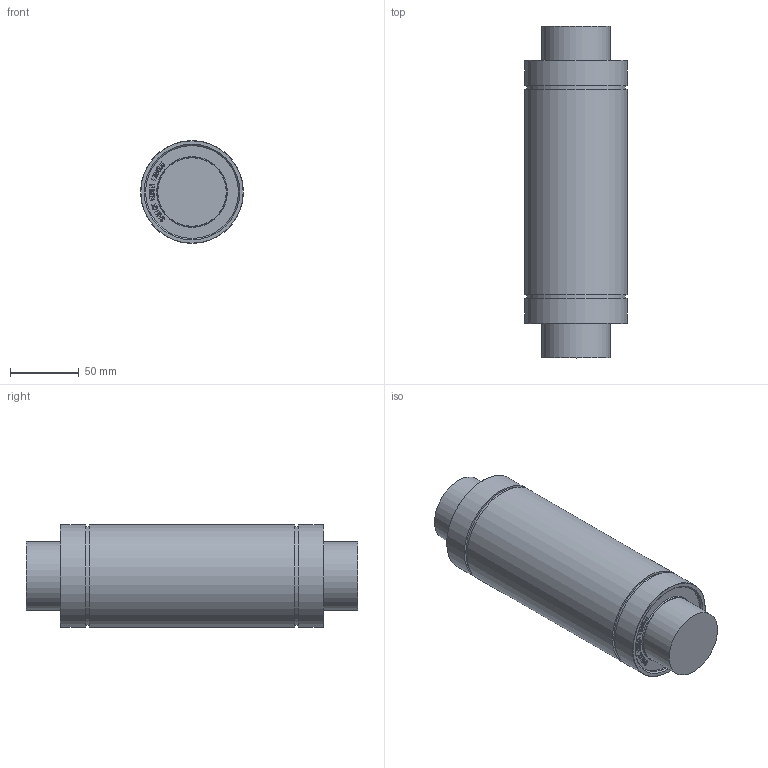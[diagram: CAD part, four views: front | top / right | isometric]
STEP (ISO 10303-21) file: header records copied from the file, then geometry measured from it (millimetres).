
FILE_DESCRIPTION((''),'2;1');
FILE_NAME('D:\STEP\EUROPE\UU\LME L UU\LME50LUU.stp','2013-02-05T19:13:54',('user2'),(''),'Autodesk Inventor 2012','Autodesk Inventor 2012','');
FILE_SCHEMA(('AUTOMOTIVE_DESIGN { 1 0 10303 214 1 1 1 1 }'));
Length unit declared in the file: millimetre
Products named in the file (1): LME50LUU
Bounding box: 75 x 242 x 75 mm (x, y, z)
Volume: 936700.6 mm3; surface area: 64726.1 mm2
Topology: 1 solids, 1 shells, 841 faces, 2353 edges, 1568 vertices
Faces by surface type: bspline 600, plane 226, cylinder 9, cone 4, torus 2
Full cylindrical faces by diameter (mm): 50 x2, 67.7 x2, 72 x2, 75 x3
Entity records: 28421 total; most frequent: CARTESIAN_POINT 10144, ORIENTED_EDGE 4672, EDGE_CURVE 2336, DIRECTION 1646, VERTEX_POINT 1566, QUASI_UNIFORM_CURVE 1200, VECTOR 1110, LINE 1110
